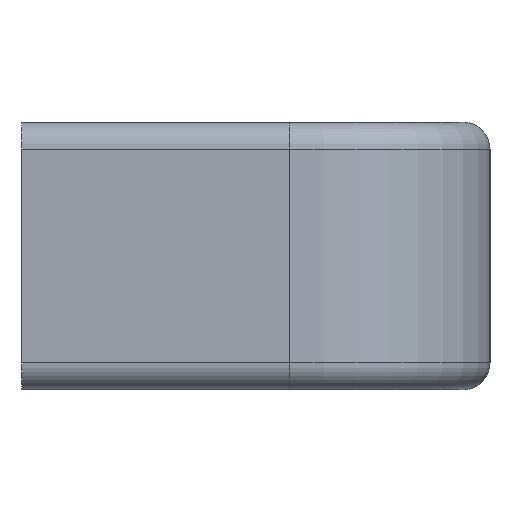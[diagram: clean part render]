
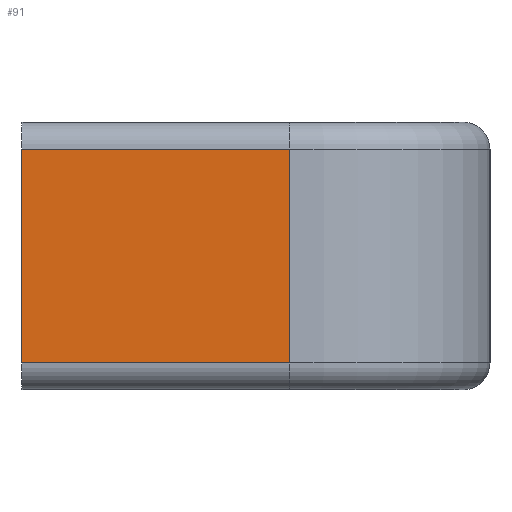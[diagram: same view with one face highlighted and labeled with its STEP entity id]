
A CAD part, left-side view. The second image highlights one B-rep face of the part: STEP entity #91.
In plain terms, the highlighted planar face has unit normal (-1, 0, 0).
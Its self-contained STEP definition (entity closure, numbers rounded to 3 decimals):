
#91 = ADVANCED_FACE( '', ( #149 ), #150, .T. );
#149 = FACE_OUTER_BOUND( '', #231, .T. );
#150 = PLANE( '', #232 );
#231 = EDGE_LOOP( '', ( #394, #395, #396, #397 ) );
#232 = AXIS2_PLACEMENT_3D( '', #398, #399, #400 );
#394 = ORIENTED_EDGE( '', *, *, #629, .T. );
#395 = ORIENTED_EDGE( '', *, *, #630, .F. );
#396 = ORIENTED_EDGE( '', *, *, #631, .T. );
#397 = ORIENTED_EDGE( '', *, *, #626, .T. );
#398 = CARTESIAN_POINT( '', ( -4., -20., 8. ) );
#399 = DIRECTION( '', ( -1., 0., 0. ) );
#400 = DIRECTION( '', ( 0., 0., 1. ) );
#626 = EDGE_CURVE( '', #750, #748, #751, .T. );
#629 = EDGE_CURVE( '', #748, #755, #756, .T. );
#630 = EDGE_CURVE( '', #757, #755, #758, .T. );
#631 = EDGE_CURVE( '', #757, #750, #759, .T. );
#748 = VERTEX_POINT( '', #919 );
#750 = VERTEX_POINT( '', #921 );
#751 = LINE( '', #922, #923 );
#755 = VERTEX_POINT( '', #928 );
#756 = LINE( '', #929, #930 );
#757 = VERTEX_POINT( '', #931 );
#758 = LINE( '', #932, #933 );
#759 = LINE( '', #934, #935 );
#919 = CARTESIAN_POINT( '', ( -4., 0., 8. ) );
#921 = CARTESIAN_POINT( '', ( -4., -20., 8. ) );
#922 = CARTESIAN_POINT( '', ( -4., -20., 8. ) );
#923 = VECTOR( '', #1096, 1. );
#928 = CARTESIAN_POINT( '', ( -4., 0., -8. ) );
#929 = CARTESIAN_POINT( '', ( -4., 0., -8. ) );
#930 = VECTOR( '', #1101, 1. );
#931 = CARTESIAN_POINT( '', ( -4., -20., -8. ) );
#932 = CARTESIAN_POINT( '', ( -4., -20., -8. ) );
#933 = VECTOR( '', #1102, 1. );
#934 = CARTESIAN_POINT( '', ( -4., -20., -8. ) );
#935 = VECTOR( '', #1103, 1. );
#1096 = DIRECTION( '', ( 0., 1., 0. ) );
#1101 = DIRECTION( '', ( 0., 0., -1. ) );
#1102 = DIRECTION( '', ( 0., 1., 0. ) );
#1103 = DIRECTION( '', ( 0., 0., 1. ) );
